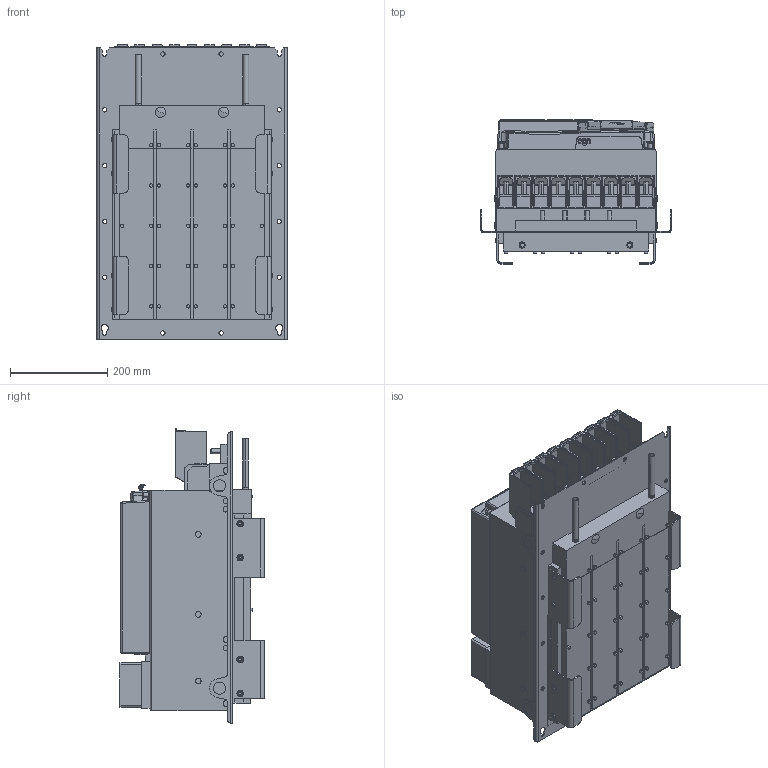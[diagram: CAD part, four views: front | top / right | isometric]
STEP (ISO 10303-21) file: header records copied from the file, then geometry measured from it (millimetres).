
FILE_DESCRIPTION (( 'STEP AP214' ), '1' );
FILE_NAME ('10060971_000.STEP', '2021-03-02T13:38:20', ( '' ), ( '' ), 'SwSTEP 2.0', 'SolidWorks 2019', '' );
FILE_SCHEMA (( 'AUTOMOTIVE_DESIGN' ));
Length unit declared in the file: millimetre
Products named in the file (14): 10060971_000; 10061503_000; 10059764_000_Blindabdeckung (Kundenmodell); 10059765_000; 10061522_000; 10061506_000; 10061504_000_Gehеsebaugruppe ohne L’terkarte; 10060970_000_Leistungsteil + BW F6-7 TW5 (Kundenmodell); 10045475_000_Geh„usebaugruppe F6-7 (Kundenmodell); 10061523_000; 10058413_000; 10035735_000_Kundenmodell; 10043622_000_70F6 Klemme (Kundenmodell); 10061502_000_Deckel (Kundenmodell)
Assembly tree (13 placements, depth 4):
  10060971_000
    10060970_000_Leistungsteil + BW F6-7 TW5 (Kundenmodell)
      10043622_000_70F6 Klemme (Kundenmodell)
        10061522_000
      10061506_000
      10061523_000
    10045475_000_Geh„usebaugruppe F6-7 (Kundenmodell)
      10061502_000_Deckel (Kundenmodell)
        10061503_000
      10061504_000_Gehеsebaugruppe ohne L’terkarte
    10035735_000_Kundenmodell
      10059764_000_Blindabdeckung (Kundenmodell)
        10059765_000
      10058413_000
Bounding box: 392 x 296.9 x 606.26 mm (x, y, z)
Volume: 45754904.1 mm3; surface area: 2784548.7 mm2
Topology: 13 solids, 13 shells, 3477 faces, 8829 edges, 5456 vertices
Faces by surface type: plane 1736, cylinder 1130, bspline 268, sphere 176, torus 113, cone 54
Entity records: 111524 total; most frequent: CARTESIAN_POINT 29165, ORIENTED_EDGE 17436, DIRECTION 16485, EDGE_CURVE 8718, AXIS2_PLACEMENT_3D 5540, VERTEX_POINT 5453, VECTOR 5405, LINE 5405
